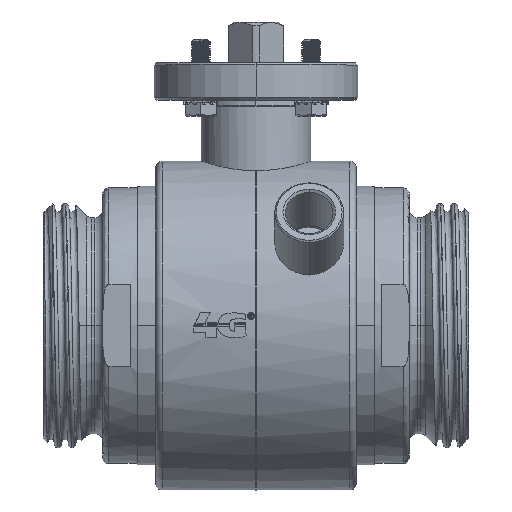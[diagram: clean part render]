
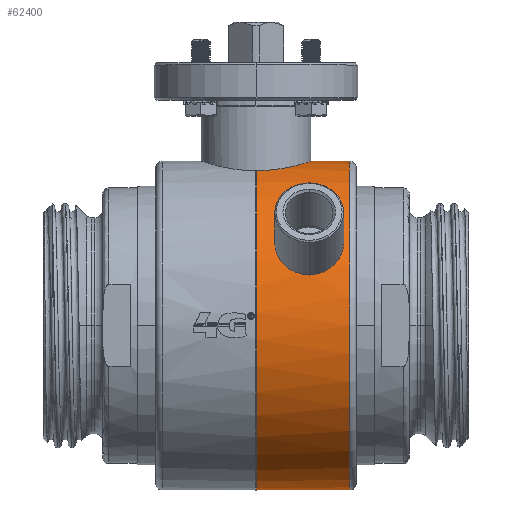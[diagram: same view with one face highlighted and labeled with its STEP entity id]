
A CAD part, top view. The second image highlights one B-rep face of the part: STEP entity #62400.
In plain terms, the highlighted cylindrical face has radius 52.5 mm (diameter 105 mm), a partial arc.
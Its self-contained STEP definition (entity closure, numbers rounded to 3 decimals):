
#59571=CARTESIAN_POINT('',(17.5,52.5,0.));
#60992=CARTESIAN_POINT('',(30.,0.,0.));
#60993=DIRECTION('',(-1.,0.,0.));
#60994=DIRECTION('',(0.,-1.,0.));
#60995=AXIS2_PLACEMENT_3D('',#60992,#60993,#60994);
#61002=DIRECTION('',(1.,0.,0.));
#61003=VECTOR('',#61002,12.5);
#61004=CARTESIAN_POINT('',(17.5,52.5,0.));
#61005=LINE('',#61004,#61003);
#61006=CARTESIAN_POINT('',(17.5,52.5,0.));
#61007=CARTESIAN_POINT('',(17.5,52.5,1.128));
#61008=CARTESIAN_POINT('',(17.286,52.428,3.354));
#61009=CARTESIAN_POINT('',(16.313,52.112,6.642));
#61010=CARTESIAN_POINT('',(14.69,51.621,9.723));
#61011=CARTESIAN_POINT('',(12.455,51.021,12.462));
#61012=CARTESIAN_POINT('',(9.711,50.414,14.699));
#61013=CARTESIAN_POINT('',(6.624,49.905,16.32));
#61014=CARTESIAN_POINT('',(3.339,49.573,17.288));
#61015=CARTESIAN_POINT('',(1.123,49.497,17.5));
#61016=CARTESIAN_POINT('',(0.,49.497,17.5));
#61018=CARTESIAN_POINT('',(0.,0.,0.));
#61019=DIRECTION('',(1.,0.,0.));
#61020=DIRECTION('',(0.,0.943,0.333));
#61021=AXIS2_PLACEMENT_3D('',#61018,#61019,#61020);
#61023=DIRECTION('',(-1.,0.,0.));
#61024=VECTOR('',#61023,30.);
#61025=CARTESIAN_POINT('',(30.,-52.5,0.));
#61026=LINE('',#61025,#61024);
#61027=CARTESIAN_POINT('',(17.,16.141,49.957));
#61028=CARTESIAN_POINT('',(16.18,16.141,49.957));
#61029=CARTESIAN_POINT('',(14.577,16.314,49.902));
#61030=CARTESIAN_POINT('',(12.219,17.1,49.641));
#61031=CARTESIAN_POINT('',(10.1,18.368,49.19));
#61032=CARTESIAN_POINT('',(8.322,20.041,48.538));
#61033=CARTESIAN_POINT('',(6.996,21.998,47.687));
#61034=CARTESIAN_POINT('',(6.182,24.109,46.658));
#61035=CARTESIAN_POINT('',(5.909,26.259,45.483));
#61036=CARTESIAN_POINT('',(6.182,28.351,44.209));
#61037=CARTESIAN_POINT('',(6.995,30.298,42.895));
#61038=CARTESIAN_POINT('',(8.321,32.014,41.625));
#61039=CARTESIAN_POINT('',(10.099,33.415,40.503));
#61040=CARTESIAN_POINT('',(12.218,34.44,39.63));
#61041=CARTESIAN_POINT('',(14.576,35.059,39.08));
#61042=CARTESIAN_POINT('',(16.179,35.194,38.957));
#61043=CARTESIAN_POINT('',(17.,35.194,38.957));
#61045=CARTESIAN_POINT('',(17.,35.194,38.957));
#61046=CARTESIAN_POINT('',(17.82,35.194,38.957));
#61047=CARTESIAN_POINT('',(19.423,35.059,39.08));
#61048=CARTESIAN_POINT('',(21.781,34.44,39.63));
#61049=CARTESIAN_POINT('',(23.9,33.416,40.503));
#61050=CARTESIAN_POINT('',(25.678,32.015,41.625));
#61051=CARTESIAN_POINT('',(27.004,30.299,42.894));
#61052=CARTESIAN_POINT('',(27.818,28.352,44.208));
#61053=CARTESIAN_POINT('',(28.091,26.26,45.483));
#61054=CARTESIAN_POINT('',(27.818,24.11,46.657));
#61055=CARTESIAN_POINT('',(27.005,21.999,47.686));
#61056=CARTESIAN_POINT('',(25.679,20.042,48.537));
#61057=CARTESIAN_POINT('',(23.901,18.369,49.19));
#61058=CARTESIAN_POINT('',(21.782,17.101,49.641));
#61059=CARTESIAN_POINT('',(19.424,16.315,49.902));
#61060=CARTESIAN_POINT('',(17.821,16.141,49.957));
#61061=CARTESIAN_POINT('',(17.,16.141,49.957));
#61172=VERTEX_POINT('',#59571);
#61175=VERTEX_POINT('',#61016);
#61222=CARTESIAN_POINT('',(30.,52.5,0.));
#61223=CARTESIAN_POINT('',(30.,-52.5,0.));
#61224=VERTEX_POINT('',#61222);
#61225=VERTEX_POINT('',#61223);
#61226=CARTESIAN_POINT('',(0.,-52.5,0.));
#61227=VERTEX_POINT('',#61226);
#61563=VERTEX_POINT('',#61043);
#61564=VERTEX_POINT('',#61027);
#62380=CARTESIAN_POINT('',(-0.6,0.,0.));
#62381=DIRECTION('',(1.,0.,0.));
#62382=DIRECTION('',(0.,1.,0.));
#62383=AXIS2_PLACEMENT_3D('',#62380,#62381,#62382);
#62384=CYLINDRICAL_SURFACE('',#62383,52.5);
#62385=ORIENTED_EDGE('',*,*,#62374,.T.);
#62386=ORIENTED_EDGE('',*,*,#61740,.F.);
#62388=ORIENTED_EDGE('',*,*,#62387,.T.);
#62390=ORIENTED_EDGE('',*,*,#62389,.T.);
#62391=ORIENTED_EDGE('',*,*,#61734,.F.);
#62392=EDGE_LOOP('',(#62385,#62386,#62388,#62390,#62391));
#62393=FACE_OUTER_BOUND('',#62392,.F.);
#62395=ORIENTED_EDGE('',*,*,#62394,.T.);
#62397=ORIENTED_EDGE('',*,*,#62396,.T.);
#62398=EDGE_LOOP('',(#62395,#62397));
#62399=FACE_BOUND('',#62398,.F.);
#60996=CIRCLE('',#60995,52.5);
#61017=B_SPLINE_CURVE_WITH_KNOTS('',3,(#61006,#61007,#61008,#61009,#61010,
#61011,#61012,#61013,#61014,#61015,#61016),.UNSPECIFIED.,.F.,.F.,(4,1,1,1,1,1,1,
1,4),(0.,0.125,0.25,0.375,0.5,0.625,0.75,0.875,1.),
.UNSPECIFIED.);
#61022=CIRCLE('',#61021,52.5);
#61044=B_SPLINE_CURVE_WITH_KNOTS('',3,(#61027,#61028,#61029,#61030,#61031,
#61032,#61033,#61034,#61035,#61036,#61037,#61038,#61039,#61040,#61041,#61042,
#61043),.UNSPECIFIED.,.F.,.F.,(4,1,1,1,1,1,1,1,1,1,1,1,1,1,4),(0.,
0.071,0.143,0.214,0.286,
0.357,0.429,0.5,0.571,0.643,
0.714,0.786,0.857,0.929,1.),
.UNSPECIFIED.);
#61062=B_SPLINE_CURVE_WITH_KNOTS('',3,(#61045,#61046,#61047,#61048,#61049,
#61050,#61051,#61052,#61053,#61054,#61055,#61056,#61057,#61058,#61059,#61060,
#61061),.UNSPECIFIED.,.F.,.F.,(4,1,1,1,1,1,1,1,1,1,1,1,1,1,4),(0.,
0.071,0.143,0.214,0.286,
0.357,0.429,0.5,0.571,0.643,
0.714,0.786,0.857,0.929,1.),
.UNSPECIFIED.);
#61734=EDGE_CURVE('',#61225,#61227,#61026,.T.);
#61740=EDGE_CURVE('',#61172,#61224,#61005,.T.);
#62374=EDGE_CURVE('',#61225,#61224,#60996,.T.);
#62387=EDGE_CURVE('',#61172,#61175,#61017,.T.);
#62389=EDGE_CURVE('',#61175,#61227,#61022,.T.);
#62394=EDGE_CURVE('',#61564,#61563,#61044,.T.);
#62396=EDGE_CURVE('',#61563,#61564,#61062,.T.);
#62400=ADVANCED_FACE('',(#62393,#62399),#62384,.F.);
